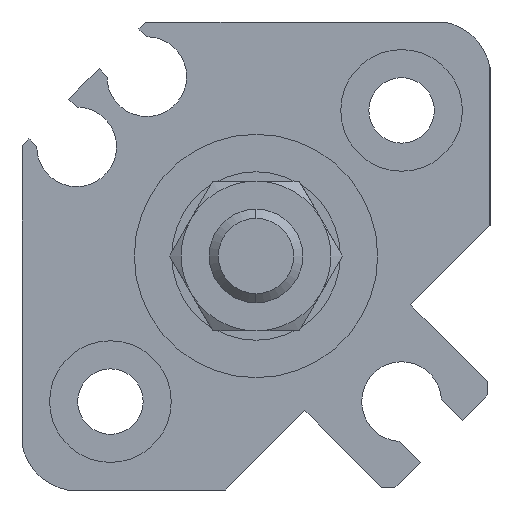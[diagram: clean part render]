
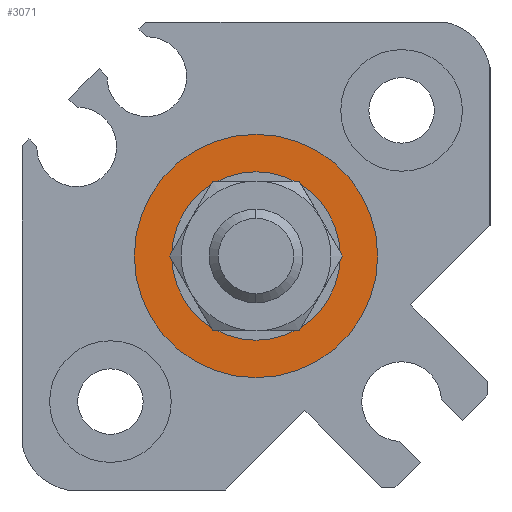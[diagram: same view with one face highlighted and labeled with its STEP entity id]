
A CAD part, left-side view. The second image highlights one B-rep face of the part: STEP entity #3071.
In plain terms, the highlighted planar face has unit normal (-1, 0, 0).
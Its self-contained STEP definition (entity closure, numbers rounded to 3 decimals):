
#7 = DIRECTION ( 'NONE',  ( 1., 0., 0. ) ) ;
#142 = AXIS2_PLACEMENT_3D ( 'NONE', #4715, #4792, #3192 ) ;
#303 = DIRECTION ( 'NONE',  ( 0., 0., -1. ) ) ;
#345 = EDGE_CURVE ( 'NONE', #4049, #4901, #1157, .T. ) ;
#538 = CARTESIAN_POINT ( 'NONE',  ( 0.9, 0., -6.5 ) ) ;
#703 = AXIS2_PLACEMENT_3D ( 'NONE', #1877, #7, #303 ) ;
#786 = PLANE ( 'NONE',  #3237 ) ;
#834 = DIRECTION ( 'NONE',  ( 0., 0., -1. ) ) ;
#1076 = VERTEX_POINT ( 'NONE', #3913 ) ;
#1157 = CIRCLE ( 'NONE', #1886, 6.5 ) ;
#1281 = CIRCLE ( 'NONE', #142, 4.5 ) ;
#1553 = DIRECTION ( 'NONE',  ( 1., 0., 0. ) ) ;
#1578 = CARTESIAN_POINT ( 'NONE',  ( 0.9, 0., 0. ) ) ;
#1733 = EDGE_CURVE ( 'NONE', #1076, #3731, #5000, .T. ) ;
#1877 = CARTESIAN_POINT ( 'NONE',  ( 0.9, 0., 0. ) ) ;
#1886 = AXIS2_PLACEMENT_3D ( 'NONE', #4121, #4557, #4853 ) ;
#1927 = CARTESIAN_POINT ( 'NONE',  ( 0.9, 0., 0. ) ) ;
#2027 = CARTESIAN_POINT ( 'NONE',  ( 0.9, 0., 4.5 ) ) ;
#2070 = CARTESIAN_POINT ( 'NONE',  ( 0.9, 0., 6.5 ) ) ;
#2273 = FACE_BOUND ( 'NONE', #3262, .T. ) ;
#2615 = ORIENTED_EDGE ( 'NONE', *, *, #4359, .F. ) ;
#2620 = DIRECTION ( 'NONE',  ( 0., 1., 0. ) ) ;
#2821 = ORIENTED_EDGE ( 'NONE', *, *, #345, .F. ) ;
#3071 = ADVANCED_FACE ( 'NONE', ( #3435, #2273 ), #786, .F. ) ;
#3192 = DIRECTION ( 'NONE',  ( 0., 0., -1. ) ) ;
#3233 = EDGE_LOOP ( 'NONE', ( #2821, #2615 ) ) ;
#3237 = AXIS2_PLACEMENT_3D ( 'NONE', #1578, #4658, #2620 ) ;
#3262 = EDGE_LOOP ( 'NONE', ( #3269, #4446 ) ) ;
#3269 = ORIENTED_EDGE ( 'NONE', *, *, #4834, .T. ) ;
#3435 = FACE_OUTER_BOUND ( 'NONE', #3233, .T. ) ;
#3731 = VERTEX_POINT ( 'NONE', #2027 ) ;
#3913 = CARTESIAN_POINT ( 'NONE',  ( 0.9, 0., -4.5 ) ) ;
#4049 = VERTEX_POINT ( 'NONE', #2070 ) ;
#4121 = CARTESIAN_POINT ( 'NONE',  ( 0.9, 0., 0. ) ) ;
#4359 = EDGE_CURVE ( 'NONE', #4901, #4049, #4899, .T. ) ;
#4446 = ORIENTED_EDGE ( 'NONE', *, *, #1733, .T. ) ;
#4557 = DIRECTION ( 'NONE',  ( 1., 0., 0. ) ) ;
#4658 = DIRECTION ( 'NONE',  ( 1., 0., 0. ) ) ;
#4715 = CARTESIAN_POINT ( 'NONE',  ( 0.9, 0., 0. ) ) ;
#4773 = AXIS2_PLACEMENT_3D ( 'NONE', #1927, #1553, #834 ) ;
#4792 = DIRECTION ( 'NONE',  ( 1., 0., 0. ) ) ;
#4834 = EDGE_CURVE ( 'NONE', #3731, #1076, #1281, .T. ) ;
#4853 = DIRECTION ( 'NONE',  ( 0., 0., -1. ) ) ;
#4899 = CIRCLE ( 'NONE', #703, 6.5 ) ;
#4901 = VERTEX_POINT ( 'NONE', #538 ) ;
#5000 = CIRCLE ( 'NONE', #4773, 4.5 ) ;
